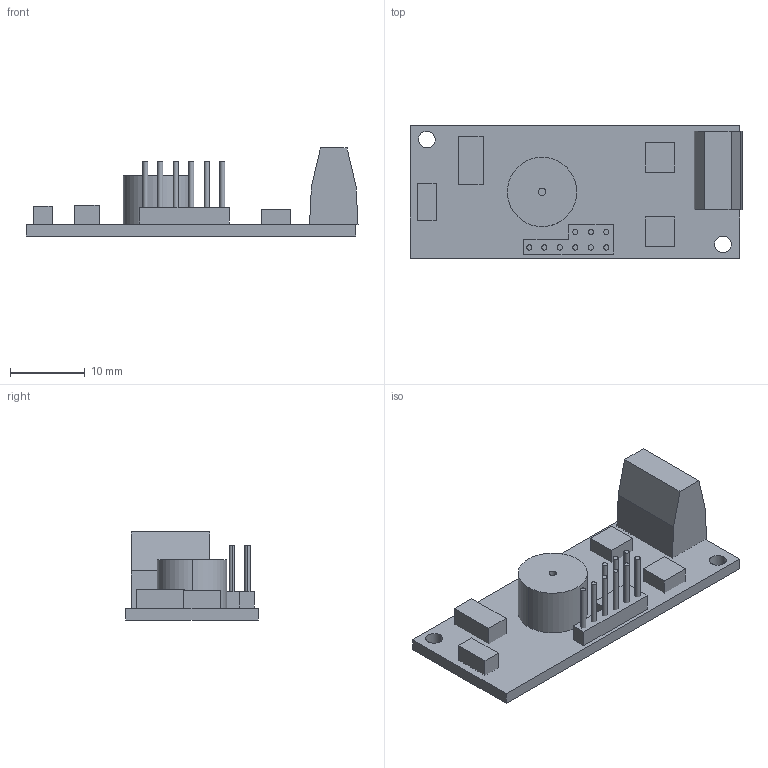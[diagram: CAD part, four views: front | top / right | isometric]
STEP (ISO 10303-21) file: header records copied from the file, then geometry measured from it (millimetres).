
FILE_DESCRIPTION(/* description */ (''),/* implementation_level */ '2;1');
FILE_NAME(/* name */ 'quark',/* time_stamp */ '2021-08-20T00:14:05-07:00',/* author */ (''),/* organization */ (''),/* preprocessor_version */ 'ST-DEVELOPER v16.5',/* originating_system */ '',/* authorisation */ '');
FILE_SCHEMA (('CONFIG_CONTROL_DESIGN'));
Length unit declared in the file: millimetre
Products named in the file (1): Document
Bounding box: 44.5 x 17.7 x 11.81 mm (x, y, z)
Volume: 2679.9 mm3; surface area: 3325.1 mm2
Topology: 18 solids, 18 shells, 100 faces, 189 edges, 126 vertices
Faces by surface type: plane 74, cylinder 26
Entity records: 2302 total; most frequent: CARTESIAN_POINT 762, ORIENTED_EDGE 378, EDGE_CURVE 189, VERTEX_POINT 126, B_SPLINE_CURVE_WITH_KNOTS 111, EDGE_LOOP 105, DIRECTION 104, AXIS2_PLACEMENT_3D 102
